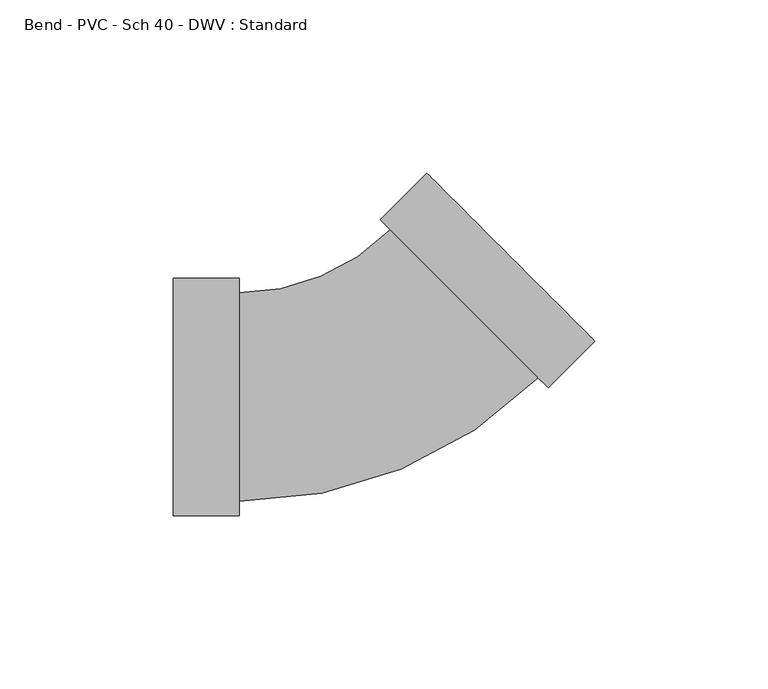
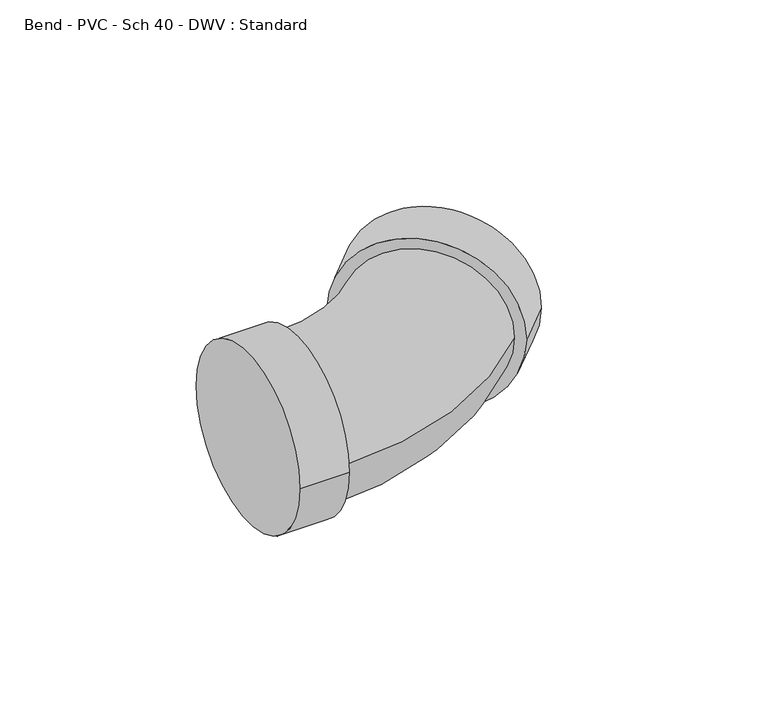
"""IFC4 building model written with IfcOpenShell, lengths in millimetres: pipe fitting geometry, Bend - PVC - Sch 40 - DWV : Standard."""

from ifc_helpers import new_model, si_unit, point, frame, origin, place, context, project, spatial, circle_curve, ellipse_curve, trimmed, source, transform, mapped, element, save
from ifc_brep_helpers import plane_surface, cylinder_surface, revolved_surface, advanced_brep


def bend_pvc_sch_40_dwv_standard_22440e34(model_context):
    return source(origin(), model_context, "Body", "AdvancedBrep", [
        advanced_brep(
        [(-57.15, -34.3154, 0.0), (-57.15, 34.3154, 0.0), (-38.1, -34.3154, 0.0), (-38.1, 34.3154, 0.0), (-38.1, -30.1625, 0.0), (-38.1, 30.1625, 0.0), (5.6148293, 48.2686244, 0.0), (48.2691288, 5.6104908, 0.0), (51.2055406, 2.6738151, 0.0), (2.6784176, 51.2053001, 0.0), (64.6765302, 16.1435939, 0.0), (16.1494071, 64.6750789, 0.0)],
        [
            (0, 1, circle_curve(frame((-57.15, 0.0, 0.0), z_axis=(-1.0, 0.0, 0.0), x_axis=(0.0, 1.0, 0.0)), 34.3154)),
            (1, 0, circle_curve(frame((-57.15, 0.0, 0.0), z_axis=(-1.0, 0.0, 0.0), x_axis=(0.0, 1.0, 0.0)), 34.3154)),
            (2, 3, circle_curve(frame((-38.1, 0.0, 0.0), z_axis=(1.0, 0.0, 0.0), x_axis=(0.0, 1.0, 0.0)), 34.3154)),
            (3, 2, circle_curve(frame((-38.1, 0.0, 0.0), z_axis=(1.0, 0.0, 0.0), x_axis=(0.0, 1.0, 0.0)), 34.3154)),
            (4, 5, circle_curve(frame((-38.1, 0.0, 0.0), z_axis=(-1.0, 0.0, 0.0), x_axis=(0.0, 1.0, 0.0)), 30.1625)),
            (5, 4, circle_curve(frame((-38.1, 0.0, 0.0), z_axis=(-1.0, 0.0, 0.0), x_axis=(0.0, 1.0, 0.0)), 30.1625)),
            (0, 2),
            (3, 1),
            (6, 5, circle_curve(frame((-38.1, 91.9873831, 0.0), z_axis=(0.0, 0.0, -1.0), x_axis=(0.0, -1.0, 0.0)), 61.8248831)),
            (4, 7, circle_curve(frame((-38.1, 91.9873831, 0.0), z_axis=(0.0, 0.0, 1.0), x_axis=(0.0, -1.0, 0.0)), 122.1498831)),
            (7, 6, circle_curve(frame((26.9419791, 26.9395576, 0.0), z_axis=(-0.7071385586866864, -0.7070750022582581, 0.0), x_axis=(-0.7070750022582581, 0.7071385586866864, 0.0)), 30.1625)),
            (6, 7, circle_curve(frame((26.9419791, 26.9395576, 0.0), z_axis=(-0.7071385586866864, -0.7070750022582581, 0.0), x_axis=(-0.7070750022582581, 0.7071385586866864, 0.0)), 30.1625)),
            (8, 9, circle_curve(frame((26.9419791, 26.9395576, 0.0), z_axis=(-0.7071385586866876, -0.707075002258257, 0.0), x_axis=(-0.707075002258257, 0.7071385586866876, 0.0)), 34.3154)),
            (9, 8, circle_curve(frame((26.9419791, 26.9395576, 0.0), z_axis=(-0.7071385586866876, -0.707075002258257, 0.0), x_axis=(-0.707075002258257, 0.7071385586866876, 0.0)), 34.3154)),
            (10, 11, circle_curve(frame((40.4129686, 40.4093364, 0.0), z_axis=(0.7071385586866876, 0.707075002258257, 0.0), x_axis=(-0.707075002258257, 0.7071385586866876, 0.0)), 34.3154)),
            (11, 10, circle_curve(frame((40.4129686, 40.4093364, 0.0), z_axis=(0.7071385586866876, 0.707075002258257, 0.0), x_axis=(-0.707075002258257, 0.7071385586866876, 0.0)), 34.3154)),
            (8, 10),
            (11, 9),
        ],
        [
            plane_surface(frame((-57.15, 0.0, 0.0), z_axis=(-1.0, 0.0, 0.0), x_axis=(0.0, 0.0, 1.0))),
            plane_surface(frame((-38.1, 0.0, 0.0), z_axis=(1.0, 0.0, 0.0), x_axis=(0.0, 0.0, 1.0))),
            cylinder_surface(frame((-57.15, 0.0, 0.0), z_axis=(-1.0, 0.0, 0.0), x_axis=(0.0, 1.0, 0.0)), 34.3154),
            revolved_surface(trimmed(ellipse_curve(frame((-38.1, 0.0, 0.0), z_axis=(-1.0, 0.0, 0.0), x_axis=(0.0, 1.0, 0.0)), 30.1625, 30.1625), [point((-38.1, -30.1625, 0.0))], [point((-38.1, 30.1625, 0.0))], True, "CARTESIAN"), (-38.1, 91.9873831, 0.0), (0.0, 0.0, 1.0)),
            revolved_surface(trimmed(ellipse_curve(frame((-38.1, 0.0, 0.0), z_axis=(-1.0, 0.0, 0.0), x_axis=(0.0, 1.0, 0.0)), 30.1625, 30.1625), [point((-38.1, 30.1625, 0.0))], [point((-38.1, -30.1625, 0.0))], True, "CARTESIAN"), (-38.1, 91.9873831, 0.0), (0.0, 0.0, 1.0)),
            plane_surface(frame((26.9419791, 26.9395576, 0.0), z_axis=(-0.7071385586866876, -0.707075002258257, 0.0), x_axis=(0.0, 0.0, 1.0))),
            plane_surface(frame((40.4129686, 40.4093364, 0.0), z_axis=(0.7071385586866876, 0.707075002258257, 0.0), x_axis=(0.0, 0.0, 1.0))),
            cylinder_surface(frame((26.9419791, 26.9395576, 0.0), z_axis=(-0.7071385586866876, -0.707075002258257, 0.0), x_axis=(-0.707075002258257, 0.7071385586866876, 0.0)), 34.3154),
        ],
        [
            (0, [[1, 2]]),
            (1, [[3, 4], [5, 6]]),
            (2, [[-1, 7, -4, 8]]),
            (2, [[-2, -8, -3, -7]]),
            (3, [[9, -5, 10, 11]]),
            (4, [[-9, 12, -10, -6]]),
            (5, [[13, 14], [-11, -12]]),
            (6, [[15, 16]]),
            (7, [[-13, 17, -16, 18]]),
            (7, [[-14, -18, -15, -17]]),
        ],
    ),
    ])


if __name__ == "__main__":
    model = new_model("IFC4")
    model_context = context("Model", 3, world=origin())
    ifc_project = project(units=[si_unit("LENGTHUNIT", "METRE", prefix="MILLI")], contexts=[model_context])
    site = spatial("IfcSite", under=ifc_project)
    building = spatial("IfcBuilding", under=site)
    placement = place(None, origin())
    bend_pvc_sch_40_dwv_standard_shape = bend_pvc_sch_40_dwv_standard_22440e34(model_context)
    element("IfcPipeFitting", 1, ObjectType="Bend - PVC - Sch 40 - DWV : Standard", at=placement, inside=building, context=model_context, shape_type="MappedRepresentation", body=[
        mapped(bend_pvc_sch_40_dwv_standard_shape, transform((0.0, 0.0, 0.0), x_axis=(1.0, 0.0, 0.0), y_axis=(0.0, 1.0, 0.0), z_axis=(0.0, 0.0, 1.0))),
    ])
    save(model, "model.ifc")
